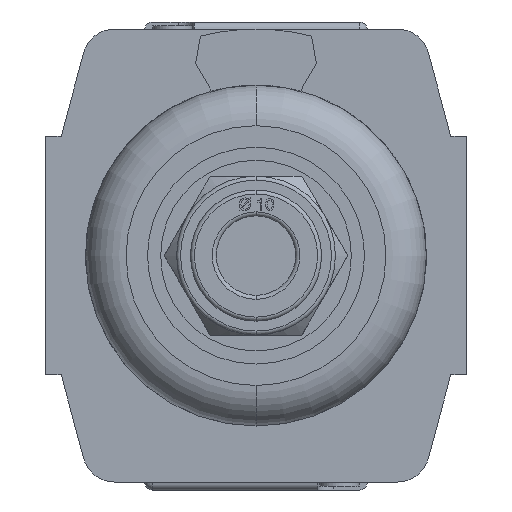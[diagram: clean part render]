
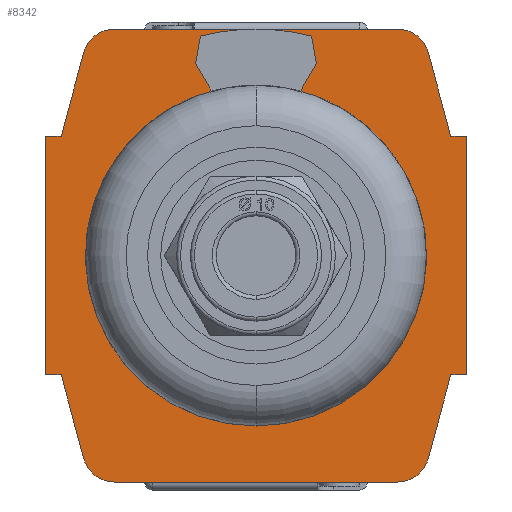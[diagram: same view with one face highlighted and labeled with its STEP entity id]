
A CAD part, front view. The second image highlights one B-rep face of the part: STEP entity #8342.
In plain terms, the highlighted planar face has unit normal (0, -1, 0).
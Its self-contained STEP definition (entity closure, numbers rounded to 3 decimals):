
#80 = VECTOR ( 'NONE', #647, 1000. ) ;
#209 = CARTESIAN_POINT ( 'NONE',  ( 17.831, -31.8, 24.5 ) ) ;
#295 = EDGE_CURVE ( 'NONE', #5638, #12101, #11395, .T. ) ;
#319 = ORIENTED_EDGE ( 'NONE', *, *, #6810, .F. ) ;
#388 = CARTESIAN_POINT ( 'NONE',  ( 24.517, -31.8, -15. ) ) ;
#464 = CARTESIAN_POINT ( 'NONE',  ( -21.694, -31.8, -25.535 ) ) ;
#492 = EDGE_CURVE ( 'NONE', #4622, #2035, #9065, .T. ) ;
#595 = EDGE_CURVE ( 'NONE', #2035, #3843, #5076, .T. ) ;
#647 = DIRECTION ( 'NONE',  ( -1., 0., 0. ) ) ;
#662 = VERTEX_POINT ( 'NONE', #2034 ) ;
#689 = EDGE_LOOP ( 'NONE', ( #319, #6799, #3326, #7002, #4280, #7893, #4257, #4821, #10576, #4475, #4041, #1320, #817, #8673, #3423, #9327 ) ) ;
#764 = EDGE_CURVE ( 'NONE', #3977, #3006, #2418, .T. ) ;
#808 = VERTEX_POINT ( 'NONE', #464 ) ;
#817 = ORIENTED_EDGE ( 'NONE', *, *, #6069, .F. ) ;
#948 = VECTOR ( 'NONE', #10382, 1000. ) ;
#1020 = EDGE_CURVE ( 'NONE', #662, #8855, #8166, .T. ) ;
#1130 = DIRECTION ( 'NONE',  ( 0., 0., -1. ) ) ;
#1148 = EDGE_CURVE ( 'NONE', #9261, #1909, #6172, .T. ) ;
#1195 = CARTESIAN_POINT ( 'NONE',  ( -26.5, -31.8, -15. ) ) ;
#1320 = ORIENTED_EDGE ( 'NONE', *, *, #3802, .F. ) ;
#1385 = CARTESIAN_POINT ( 'NONE',  ( 17.831, -31.8, -24.5 ) ) ;
#1405 = VECTOR ( 'NONE', #3409, 1000. ) ;
#1588 = LINE ( 'NONE', #3520, #12209 ) ;
#1780 = CARTESIAN_POINT ( 'NONE',  ( 26.5, -31.8, -15. ) ) ;
#1873 = DIRECTION ( 'NONE',  ( -0.259, 0., -0.966 ) ) ;
#1909 = VERTEX_POINT ( 'NONE', #8016 ) ;
#2034 = CARTESIAN_POINT ( 'NONE',  ( 21.694, -31.8, 25.535 ) ) ;
#2035 = VERTEX_POINT ( 'NONE', #1195 ) ;
#2338 = DIRECTION ( 'NONE',  ( 0., -1., 0. ) ) ;
#2348 = CARTESIAN_POINT ( 'NONE',  ( -24.517, -31.8, -15. ) ) ;
#2355 = CARTESIAN_POINT ( 'NONE',  ( -32.556, -31.8, 15. ) ) ;
#2391 = DIRECTION ( 'NONE',  ( 0., 0., -1. ) ) ;
#2392 = CARTESIAN_POINT ( 'NONE',  ( -20.9, -31.8, -28.5 ) ) ;
#2410 = DIRECTION ( 'NONE',  ( 0., 0., -1. ) ) ;
#2418 = CIRCLE ( 'NONE', #7964, 4. ) ;
#2565 = DIRECTION ( 'NONE',  ( 0., -1., 0. ) ) ;
#2567 = CARTESIAN_POINT ( 'NONE',  ( -17.831, -31.8, 28.5 ) ) ;
#2615 = VECTOR ( 'NONE', #3147, 1000. ) ;
#2996 = CARTESIAN_POINT ( 'NONE',  ( -26.5, -31.8, 15. ) ) ;
#3006 = VERTEX_POINT ( 'NONE', #3872 ) ;
#3133 = DIRECTION ( 'NONE',  ( 0., -1., 0. ) ) ;
#3147 = DIRECTION ( 'NONE',  ( 0., 0., 1. ) ) ;
#3323 = VECTOR ( 'NONE', #3463, 1000. ) ;
#3326 = ORIENTED_EDGE ( 'NONE', *, *, #4483, .F. ) ;
#3340 = CARTESIAN_POINT ( 'NONE',  ( -17.831, -31.8, 24.5 ) ) ;
#3409 = DIRECTION ( 'NONE',  ( -1., 0., 0. ) ) ;
#3423 = ORIENTED_EDGE ( 'NONE', *, *, #11197, .F. ) ;
#3463 = DIRECTION ( 'NONE',  ( 1., 0., 0. ) ) ;
#3520 = CARTESIAN_POINT ( 'NONE',  ( -24.517, -31.8, 15. ) ) ;
#3528 = CARTESIAN_POINT ( 'NONE',  ( 17.831, -31.8, 28.5 ) ) ;
#3734 = CIRCLE ( 'NONE', #11615, 4. ) ;
#3802 = EDGE_CURVE ( 'NONE', #6938, #5638, #4385, .T. ) ;
#3817 = AXIS2_PLACEMENT_3D ( 'NONE', #209, #8837, #5941 ) ;
#3843 = VERTEX_POINT ( 'NONE', #2996 ) ;
#3872 = CARTESIAN_POINT ( 'NONE',  ( -21.694, -31.8, 25.535 ) ) ;
#3941 = EDGE_CURVE ( 'NONE', #9261, #12101, #4272, .T. ) ;
#3977 = VERTEX_POINT ( 'NONE', #2567 ) ;
#4041 = ORIENTED_EDGE ( 'NONE', *, *, #295, .F. ) ;
#4105 = DIRECTION ( 'NONE',  ( 0.259, 0., 0.966 ) ) ;
#4121 = CARTESIAN_POINT ( 'NONE',  ( 26.5, -31.8, -15. ) ) ;
#4257 = ORIENTED_EDGE ( 'NONE', *, *, #8777, .F. ) ;
#4272 = CIRCLE ( 'NONE', #11956, 4. ) ;
#4280 = ORIENTED_EDGE ( 'NONE', *, *, #595, .F. ) ;
#4385 = LINE ( 'NONE', #5369, #80 ) ;
#4398 = LINE ( 'NONE', #10893, #3323 ) ;
#4475 = ORIENTED_EDGE ( 'NONE', *, *, #3941, .T. ) ;
#4483 = EDGE_CURVE ( 'NONE', #8203, #3006, #4665, .T. ) ;
#4622 = VERTEX_POINT ( 'NONE', #2348 ) ;
#4665 = LINE ( 'NONE', #8443, #5669 ) ;
#4741 = CARTESIAN_POINT ( 'NONE',  ( 20.9, -31.8, -28.5 ) ) ;
#4821 = ORIENTED_EDGE ( 'NONE', *, *, #10678, .T. ) ;
#5069 = CARTESIAN_POINT ( 'NONE',  ( 20.9, -31.8, 28.5 ) ) ;
#5076 = LINE ( 'NONE', #8912, #2615 ) ;
#5338 = VERTEX_POINT ( 'NONE', #10104 ) ;
#5369 = CARTESIAN_POINT ( 'NONE',  ( 24.517, -31.8, -15. ) ) ;
#5638 = VERTEX_POINT ( 'NONE', #388 ) ;
#5669 = VECTOR ( 'NONE', #4105, 1000. ) ;
#5941 = DIRECTION ( 'NONE',  ( 0., 0., -1. ) ) ;
#5987 = DIRECTION ( 'NONE',  ( 0., 0., -1. ) ) ;
#6069 = EDGE_CURVE ( 'NONE', #8127, #6938, #9566, .T. ) ;
#6150 = DIRECTION ( 'NONE',  ( 0., -1., 0. ) ) ;
#6172 = LINE ( 'NONE', #7229, #8076 ) ;
#6483 = CARTESIAN_POINT ( 'NONE',  ( -17.831, -31.8, -24.5 ) ) ;
#6609 = CARTESIAN_POINT ( 'NONE',  ( 20.9, -31.8, 28.5 ) ) ;
#6649 = VECTOR ( 'NONE', #9900, 1000. ) ;
#6799 = ORIENTED_EDGE ( 'NONE', *, *, #764, .T. ) ;
#6810 = EDGE_CURVE ( 'NONE', #3977, #8855, #7165, .T. ) ;
#6904 = EDGE_CURVE ( 'NONE', #3843, #8203, #1588, .T. ) ;
#6938 = VERTEX_POINT ( 'NONE', #1780 ) ;
#7002 = ORIENTED_EDGE ( 'NONE', *, *, #6904, .F. ) ;
#7013 = FACE_OUTER_BOUND ( 'NONE', #689, .T. ) ;
#7114 = DIRECTION ( 'NONE',  ( 1., 0., 0. ) ) ;
#7165 = LINE ( 'NONE', #5069, #9262 ) ;
#7229 = CARTESIAN_POINT ( 'NONE',  ( 20.9, -31.8, -28.5 ) ) ;
#7893 = ORIENTED_EDGE ( 'NONE', *, *, #492, .F. ) ;
#7964 = AXIS2_PLACEMENT_3D ( 'NONE', #3340, #2338, #2391 ) ;
#8016 = CARTESIAN_POINT ( 'NONE',  ( -17.831, -31.8, -28.5 ) ) ;
#8076 = VECTOR ( 'NONE', #10128, 1000. ) ;
#8127 = VERTEX_POINT ( 'NONE', #9774 ) ;
#8166 = CIRCLE ( 'NONE', #3817, 4. ) ;
#8203 = VERTEX_POINT ( 'NONE', #8294 ) ;
#8246 = VECTOR ( 'NONE', #1130, 1000. ) ;
#8294 = CARTESIAN_POINT ( 'NONE',  ( -24.517, -31.8, 15. ) ) ;
#8342 = ADVANCED_FACE ( 'NONE', ( #7013 ), #10772, .T. ) ;
#8443 = CARTESIAN_POINT ( 'NONE',  ( -20.9, -31.8, 28.5 ) ) ;
#8673 = ORIENTED_EDGE ( 'NONE', *, *, #10892, .F. ) ;
#8777 = EDGE_CURVE ( 'NONE', #808, #4622, #9112, .T. ) ;
#8837 = DIRECTION ( 'NONE',  ( 0., -1., 0. ) ) ;
#8855 = VERTEX_POINT ( 'NONE', #3528 ) ;
#8880 = CARTESIAN_POINT ( 'NONE',  ( 17.831, -31.8, -28.5 ) ) ;
#8912 = CARTESIAN_POINT ( 'NONE',  ( -26.5, -31.8, -15. ) ) ;
#9065 = LINE ( 'NONE', #10953, #1405 ) ;
#9112 = LINE ( 'NONE', #2392, #6649 ) ;
#9261 = VERTEX_POINT ( 'NONE', #8880 ) ;
#9262 = VECTOR ( 'NONE', #7114, 1000. ) ;
#9327 = ORIENTED_EDGE ( 'NONE', *, *, #1020, .T. ) ;
#9566 = LINE ( 'NONE', #4121, #8246 ) ;
#9774 = CARTESIAN_POINT ( 'NONE',  ( 26.5, -31.8, 15. ) ) ;
#9900 = DIRECTION ( 'NONE',  ( -0.259, 0., 0.966 ) ) ;
#9944 = VECTOR ( 'NONE', #1873, 1000. ) ;
#10069 = DIRECTION ( 'NONE',  ( 0., 0., -1. ) ) ;
#10104 = CARTESIAN_POINT ( 'NONE',  ( 24.517, -31.8, 15. ) ) ;
#10128 = DIRECTION ( 'NONE',  ( -1., 0., 0. ) ) ;
#10382 = DIRECTION ( 'NONE',  ( 0.259, 0., -0.966 ) ) ;
#10576 = ORIENTED_EDGE ( 'NONE', *, *, #1148, .F. ) ;
#10678 = EDGE_CURVE ( 'NONE', #808, #1909, #3734, .T. ) ;
#10772 = PLANE ( 'NONE',  #11183 ) ;
#10892 = EDGE_CURVE ( 'NONE', #5338, #8127, #4398, .T. ) ;
#10893 = CARTESIAN_POINT ( 'NONE',  ( 24.517, -31.8, 15. ) ) ;
#10953 = CARTESIAN_POINT ( 'NONE',  ( -24.517, -31.8, -15. ) ) ;
#11183 = AXIS2_PLACEMENT_3D ( 'NONE', #2355, #6150, #2410 ) ;
#11197 = EDGE_CURVE ( 'NONE', #662, #5338, #11302, .T. ) ;
#11252 = CARTESIAN_POINT ( 'NONE',  ( 21.694, -31.8, -25.535 ) ) ;
#11302 = LINE ( 'NONE', #6609, #948 ) ;
#11395 = LINE ( 'NONE', #4741, #9944 ) ;
#11615 = AXIS2_PLACEMENT_3D ( 'NONE', #6483, #2565, #10069 ) ;
#11956 = AXIS2_PLACEMENT_3D ( 'NONE', #1385, #3133, #5987 ) ;
#11984 = DIRECTION ( 'NONE',  ( 1., 0., 0. ) ) ;
#12101 = VERTEX_POINT ( 'NONE', #11252 ) ;
#12209 = VECTOR ( 'NONE', #11984, 1000. ) ;
